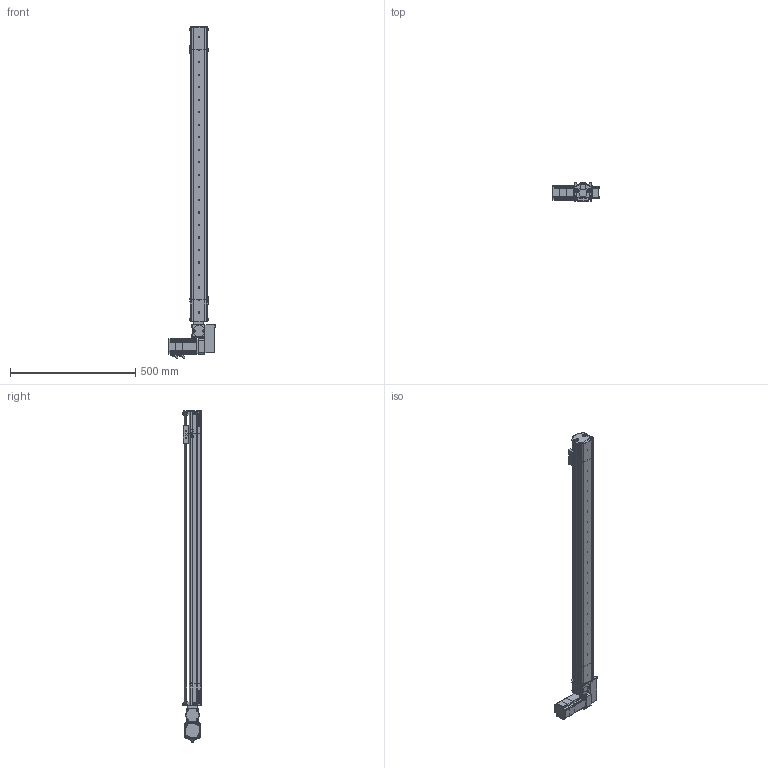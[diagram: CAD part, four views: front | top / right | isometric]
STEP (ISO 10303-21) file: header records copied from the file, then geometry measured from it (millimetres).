
FILE_DESCRIPTION (( 'STEP AP214' ), '1' );
FILE_NAME ('S07 TBN LH S1000.STEP', '2010-06-29T11:50:16', ( 'Conseil Régional Haute-Normandie' ), ( 'Conseil Régional Haute-Normandie' ), 'SwSTEP 2.0', 'SolidWorks 2010', '' );
FILE_SCHEMA (( 'AUTOMOTIVE_DESIGN' ));
Length unit declared in the file: millimetre
Products named in the file (41): P4_Default; corp moteur LH-RH(146)_Default; S07 LH(146)_Default; Pièce5^S07 LH(146); vis M5 L5_Default; P2 90A_Default; P1_Default; cache t皻e_Default; plaque de bout LH_Default; P3 90A_Default; renvoi LH_Default; Plaque racord_Default; Couroie t皻e_Default; Poulie head_Default; cache t皻e axe_Default; couvercle moteur S07 TB; GMB 60 90 310_Default; Vis M5 L16-2_Default; Cvis M5 L30_Default; S07 TB tail (78)_Default; vis M5 L12_Default; guide; CHariot_Default; Conecteur2 60BLDC_Default; VisM3_Default; Poulie_Default; T皻e de poulie_Default; plaque de bout_Default; corp tail TB_Default; couroie tail_Default; Chariot; couvercle tail TB; vis M5 L16_Default; Conecteur 60BLDC_Default; Axe 60BLDC_Default; Course C L1000_Default; S07 TBN LH S1000; couvercle S07 course 1000 ; Couroie  course 1000_Default; Corp S07 course 1000_Default
Assembly tree (80 placements, depth 4):
  Pièce5^S07 LH(146)
  S07 TBN LH S1000
    Course C L1000_Default
      Couroie  course 1000_Default
      couvercle S07 course 1000 
      Corp S07 course 1000_Default
    S07 TB tail (78)_Default
      vis M5 L12_Default  x10
      Poulie_Default
        T皻e de poulie_Default
        Poulie_Default
      plaque de bout_Default
      couvercle tail TB
      corp tail TB_Default
      couroie tail_Default
    CHariot_Default
      guide
      vis M5 L16_Default  x2
      Chariot
    S07 LH(146)_Default
      vis M5 L12_Default  x6
      Vis M5 L16-2_Default  x8
      vis M5 L5_Default  x6
      cache t皻e_Default  x2
      corp moteur LH-RH(146)_Default
      plaque de bout LH_Default
      Cvis M5 L30_Default  x2
      renvoi LH_Default
      Plaque racord_Default
      couvercle moteur S07 TB
      Poulie head_Default
      cache t皻e axe_Default
      Couroie t皻e_Default
      GMB 60 90 310_Default
        VisM3_Default  x12
        Conecteur 60BLDC_Default
        P3 90A_Default
        Axe 60BLDC_Default
        Conecteur2 60BLDC_Default
        P2 90A_Default
        P1_Default
        P4_Default
Bounding box: 190.2 x 72.2 x 1327 mm (x, y, z)
Volume: 2647514.7 mm3; surface area: 1128092.9 mm2
Topology: 102 solids, 102 shells, 3938 faces, 9804 edges, 6333 vertices
Faces by surface type: plane 2236, cylinder 772, bspline 677, cone 125, torus 124, sphere 4
Entity records: 167649 total; most frequent: CARTESIAN_POINT 75279, ORIENTED_EDGE 15520, DIRECTION 12377, EDGE_CURVE 7760, VERTEX_POINT 5121, VECTOR 5059, LINE 5059, AXIS2_PLACEMENT_3D 3659
